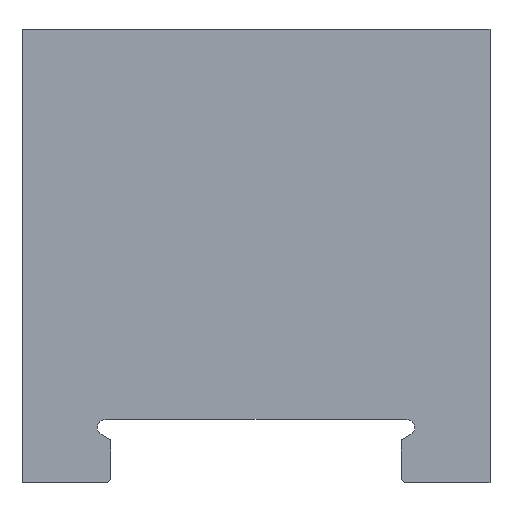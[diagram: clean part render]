
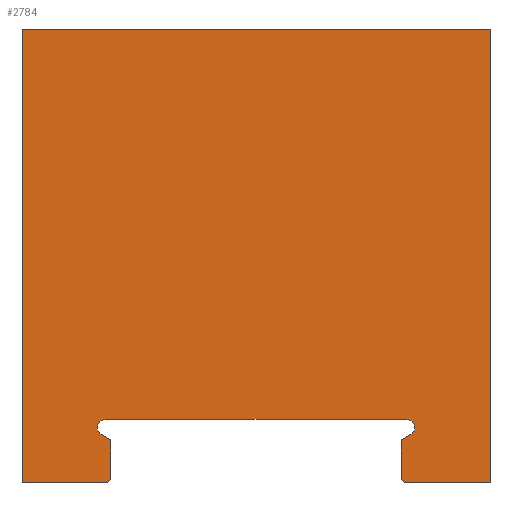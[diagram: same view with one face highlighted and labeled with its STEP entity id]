
A CAD part, front view. The second image highlights one B-rep face of the part: STEP entity #2784.
In plain terms, the highlighted planar face has unit normal (0, -1, 0).
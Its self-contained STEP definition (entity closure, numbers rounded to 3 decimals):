
#197 = VERTEX_POINT ( 'NONE', #13698 ) ;
#270 = ORIENTED_EDGE ( 'NONE', *, *, #16440, .T. ) ;
#405 = CARTESIAN_POINT ( 'NONE',  ( 20.5, -38.5, 0.5 ) ) ;
#454 = AXIS2_PLACEMENT_3D ( 'NONE', #1013, #5700, #7629 ) ;
#501 = CARTESIAN_POINT ( 'NONE',  ( 20.5, -38.5, 0.5 ) ) ;
#624 = LINE ( 'NONE', #405, #5859 ) ;
#698 = LINE ( 'NONE', #11743, #20066 ) ;
#710 = DIRECTION ( 'NONE',  ( 0., 0., 1. ) ) ;
#1013 = CARTESIAN_POINT ( 'NONE',  ( -21.295, -38.5, 7.8 ) ) ;
#1118 = DIRECTION ( 'NONE',  ( 0., -1., 0. ) ) ;
#1259 = EDGE_CURVE ( 'NONE', #9668, #18069, #11179, .T. ) ;
#1367 = VERTEX_POINT ( 'NONE', #21880 ) ;
#1699 = CIRCLE ( 'NONE', #19066, 1.1 ) ;
#1938 = VECTOR ( 'NONE', #710, 1000. ) ;
#2259 = VECTOR ( 'NONE', #12169, 1000. ) ;
#2784 = ADVANCED_FACE ( 'NONE', ( #14193 ), #15148, .F. ) ;
#2812 = CARTESIAN_POINT ( 'NONE',  ( 21.295, -38.5, 7.8 ) ) ;
#2829 = EDGE_LOOP ( 'NONE', ( #17311, #3654, #19970, #7242, #22124, #7205, #13730, #270, #6136, #4043, #21634, #11388, #19764, #7856, #8421, #8581, #6739, #14549 ) ) ;
#2834 = EDGE_CURVE ( 'NONE', #1367, #21813, #4801, .T. ) ;
#2898 = LINE ( 'NONE', #9730, #5382 ) ;
#2939 = CARTESIAN_POINT ( 'NONE',  ( 16., -38.5, 8.9 ) ) ;
#2978 = LINE ( 'NONE', #9538, #13205 ) ;
#3079 = CARTESIAN_POINT ( 'NONE',  ( -16., -38.5, 9. ) ) ;
#3403 = VECTOR ( 'NONE', #5920, 1000. ) ;
#3425 = CARTESIAN_POINT ( 'NONE',  ( -20.5, -38.5, 0. ) ) ;
#3624 = CARTESIAN_POINT ( 'NONE',  ( 21.845, -38.5, 6.847 ) ) ;
#3654 = ORIENTED_EDGE ( 'NONE', *, *, #14503, .T. ) ;
#4043 = ORIENTED_EDGE ( 'NONE', *, *, #10226, .F. ) ;
#4139 = CARTESIAN_POINT ( 'NONE',  ( -21.845, -38.5, 6.847 ) ) ;
#4322 = VECTOR ( 'NONE', #15306, 1000. ) ;
#4374 = CARTESIAN_POINT ( 'NONE',  ( -33., -38.5, 64. ) ) ;
#4464 = LINE ( 'NONE', #13759, #19140 ) ;
#4491 = EDGE_CURVE ( 'NONE', #21299, #9668, #4464, .T. ) ;
#4673 = DIRECTION ( 'NONE',  ( 0., 0., 1. ) ) ;
#4801 = CIRCLE ( 'NONE', #454, 1.1 ) ;
#5301 = CARTESIAN_POINT ( 'NONE',  ( 16., -38.5, 8.9 ) ) ;
#5382 = VECTOR ( 'NONE', #14821, 1000. ) ;
#5529 = LINE ( 'NONE', #22763, #5816 ) ;
#5700 = DIRECTION ( 'NONE',  ( 0., -1., 0. ) ) ;
#5722 = CARTESIAN_POINT ( 'NONE',  ( 33., -38.5, 64. ) ) ;
#5816 = VECTOR ( 'NONE', #22920, 1000. ) ;
#5859 = VECTOR ( 'NONE', #9347, 1000. ) ;
#5874 = CARTESIAN_POINT ( 'NONE',  ( 20.5, -38.5, 6.071 ) ) ;
#5920 = DIRECTION ( 'NONE',  ( 1., 0., 0. ) ) ;
#6136 = ORIENTED_EDGE ( 'NONE', *, *, #17377, .F. ) ;
#6154 = LINE ( 'NONE', #4374, #3403 ) ;
#6664 = LINE ( 'NONE', #22591, #9993 ) ;
#6739 = ORIENTED_EDGE ( 'NONE', *, *, #15422, .F. ) ;
#6741 = CARTESIAN_POINT ( 'NONE',  ( -33., -38.5, 0. ) ) ;
#7205 = ORIENTED_EDGE ( 'NONE', *, *, #8080, .T. ) ;
#7242 = ORIENTED_EDGE ( 'NONE', *, *, #18210, .F. ) ;
#7448 = CARTESIAN_POINT ( 'NONE',  ( 21.295, -38.5, 8.9 ) ) ;
#7629 = DIRECTION ( 'NONE',  ( 0., 0., 1. ) ) ;
#7741 = LINE ( 'NONE', #19957, #1938 ) ;
#7856 = ORIENTED_EDGE ( 'NONE', *, *, #13123, .F. ) ;
#8080 = EDGE_CURVE ( 'NONE', #17586, #22524, #2978, .T. ) ;
#8141 = VERTEX_POINT ( 'NONE', #20539 ) ;
#8393 = CARTESIAN_POINT ( 'NONE',  ( -20.5, -38.5, 6.071 ) ) ;
#8421 = ORIENTED_EDGE ( 'NONE', *, *, #16608, .F. ) ;
#8581 = ORIENTED_EDGE ( 'NONE', *, *, #22909, .F. ) ;
#9163 = LINE ( 'NONE', #3425, #2259 ) ;
#9347 = DIRECTION ( 'NONE',  ( 0.707, 0., -0.707 ) ) ;
#9527 = VERTEX_POINT ( 'NONE', #5722 ) ;
#9529 = LINE ( 'NONE', #12191, #10637 ) ;
#9538 = CARTESIAN_POINT ( 'NONE',  ( -33., -38.5, 64. ) ) ;
#9668 = VERTEX_POINT ( 'NONE', #5874 ) ;
#9730 = CARTESIAN_POINT ( 'NONE',  ( -16., -38.5, 9. ) ) ;
#9993 = VECTOR ( 'NONE', #15368, 1000. ) ;
#10184 = DIRECTION ( 'NONE',  ( -1., 0., 0. ) ) ;
#10226 = EDGE_CURVE ( 'NONE', #21813, #15051, #10987, .T. ) ;
#10408 = LINE ( 'NONE', #2939, #4322 ) ;
#10520 = VERTEX_POINT ( 'NONE', #7448 ) ;
#10637 = VECTOR ( 'NONE', #10184, 1000. ) ;
#10987 = LINE ( 'NONE', #11972, #20697 ) ;
#11112 = CARTESIAN_POINT ( 'NONE',  ( -33., -38.5, 64. ) ) ;
#11179 = LINE ( 'NONE', #12656, #12029 ) ;
#11351 = CARTESIAN_POINT ( 'NONE',  ( 33., -38.5, 0. ) ) ;
#11388 = ORIENTED_EDGE ( 'NONE', *, *, #12049, .F. ) ;
#11743 = CARTESIAN_POINT ( 'NONE',  ( -33., -38.5, 0. ) ) ;
#11824 = EDGE_CURVE ( 'NONE', #16691, #16313, #2898, .T. ) ;
#11922 = EDGE_CURVE ( 'NONE', #12310, #20478, #698, .T. ) ;
#11972 = CARTESIAN_POINT ( 'NONE',  ( -20.5, -38.5, 6.071 ) ) ;
#12029 = VECTOR ( 'NONE', #12578, 1000. ) ;
#12049 = EDGE_CURVE ( 'NONE', #16313, #1367, #9529, .T. ) ;
#12169 = DIRECTION ( 'NONE',  ( 0., 0., -1. ) ) ;
#12191 = CARTESIAN_POINT ( 'NONE',  ( -21.295, -38.5, 8.9 ) ) ;
#12310 = VERTEX_POINT ( 'NONE', #20730 ) ;
#12578 = DIRECTION ( 'NONE',  ( 0.866, 0., 0.5 ) ) ;
#12656 = CARTESIAN_POINT ( 'NONE',  ( 21.845, -38.5, 6.847 ) ) ;
#13123 = EDGE_CURVE ( 'NONE', #197, #16691, #17810, .T. ) ;
#13205 = VECTOR ( 'NONE', #16497, 1000. ) ;
#13591 = CARTESIAN_POINT ( 'NONE',  ( -16., -38.5, 9. ) ) ;
#13698 = CARTESIAN_POINT ( 'NONE',  ( 16., -38.5, 9. ) ) ;
#13730 = ORIENTED_EDGE ( 'NONE', *, *, #22465, .T. ) ;
#13735 = EDGE_CURVE ( 'NONE', #17586, #9527, #6154, .T. ) ;
#13759 = CARTESIAN_POINT ( 'NONE',  ( 20.5, -38.5, 6.071 ) ) ;
#13859 = CARTESIAN_POINT ( 'NONE',  ( -33., -38.5, 0. ) ) ;
#14193 = FACE_OUTER_BOUND ( 'NONE', #2829, .T. ) ;
#14503 = EDGE_CURVE ( 'NONE', #21299, #12310, #624, .T. ) ;
#14549 = ORIENTED_EDGE ( 'NONE', *, *, #1259, .F. ) ;
#14821 = DIRECTION ( 'NONE',  ( 0., 0., -1. ) ) ;
#14962 = AXIS2_PLACEMENT_3D ( 'NONE', #11112, #20507, #18233 ) ;
#15051 = VERTEX_POINT ( 'NONE', #8393 ) ;
#15058 = VERTEX_POINT ( 'NONE', #5301 ) ;
#15148 = PLANE ( 'NONE',  #14962 ) ;
#15306 = DIRECTION ( 'NONE',  ( -1., 0., 0. ) ) ;
#15368 = DIRECTION ( 'NONE',  ( 0., 0., -1. ) ) ;
#15422 = EDGE_CURVE ( 'NONE', #18069, #10520, #1699, .T. ) ;
#15561 = DIRECTION ( 'NONE',  ( 1., 0., 0. ) ) ;
#15840 = CARTESIAN_POINT ( 'NONE',  ( -33., -38.5, 64. ) ) ;
#16313 = VERTEX_POINT ( 'NONE', #22152 ) ;
#16440 = EDGE_CURVE ( 'NONE', #21242, #8141, #5529, .T. ) ;
#16497 = DIRECTION ( 'NONE',  ( 0., 0., -1. ) ) ;
#16608 = EDGE_CURVE ( 'NONE', #15058, #197, #7741, .T. ) ;
#16691 = VERTEX_POINT ( 'NONE', #13591 ) ;
#16994 = DIRECTION ( 'NONE',  ( 1., 0., 0. ) ) ;
#17311 = ORIENTED_EDGE ( 'NONE', *, *, #4491, .F. ) ;
#17377 = EDGE_CURVE ( 'NONE', #15051, #8141, #9163, .T. ) ;
#17549 = DIRECTION ( 'NONE',  ( -1., 0., 0. ) ) ;
#17586 = VERTEX_POINT ( 'NONE', #15840 ) ;
#17810 = LINE ( 'NONE', #3079, #21408 ) ;
#18069 = VERTEX_POINT ( 'NONE', #3624 ) ;
#18210 = EDGE_CURVE ( 'NONE', #9527, #20478, #6664, .T. ) ;
#18233 = DIRECTION ( 'NONE',  ( 0., 0., 1. ) ) ;
#18809 = DIRECTION ( 'NONE',  ( 0., 0., 1. ) ) ;
#19066 = AXIS2_PLACEMENT_3D ( 'NONE', #2812, #1118, #4673 ) ;
#19140 = VECTOR ( 'NONE', #18809, 1000. ) ;
#19764 = ORIENTED_EDGE ( 'NONE', *, *, #11824, .F. ) ;
#19957 = CARTESIAN_POINT ( 'NONE',  ( 16., -38.5, 9. ) ) ;
#19970 = ORIENTED_EDGE ( 'NONE', *, *, #11922, .T. ) ;
#20066 = VECTOR ( 'NONE', #16994, 1000. ) ;
#20121 = LINE ( 'NONE', #6741, #22902 ) ;
#20478 = VERTEX_POINT ( 'NONE', #11351 ) ;
#20507 = DIRECTION ( 'NONE',  ( 0., 1., 0. ) ) ;
#20539 = CARTESIAN_POINT ( 'NONE',  ( -20.5, -38.5, 0.5 ) ) ;
#20660 = DIRECTION ( 'NONE',  ( 0.866, 0., -0.5 ) ) ;
#20697 = VECTOR ( 'NONE', #20660, 1000. ) ;
#20730 = CARTESIAN_POINT ( 'NONE',  ( 21., -38.5, 0. ) ) ;
#21242 = VERTEX_POINT ( 'NONE', #22942 ) ;
#21299 = VERTEX_POINT ( 'NONE', #501 ) ;
#21408 = VECTOR ( 'NONE', #17549, 1000. ) ;
#21634 = ORIENTED_EDGE ( 'NONE', *, *, #2834, .F. ) ;
#21813 = VERTEX_POINT ( 'NONE', #4139 ) ;
#21880 = CARTESIAN_POINT ( 'NONE',  ( -21.295, -38.5, 8.9 ) ) ;
#22124 = ORIENTED_EDGE ( 'NONE', *, *, #13735, .F. ) ;
#22152 = CARTESIAN_POINT ( 'NONE',  ( -16., -38.5, 8.9 ) ) ;
#22465 = EDGE_CURVE ( 'NONE', #22524, #21242, #20121, .T. ) ;
#22524 = VERTEX_POINT ( 'NONE', #13859 ) ;
#22591 = CARTESIAN_POINT ( 'NONE',  ( 33., -38.5, 64. ) ) ;
#22763 = CARTESIAN_POINT ( 'NONE',  ( -21., -38.5, 0. ) ) ;
#22902 = VECTOR ( 'NONE', #15561, 1000. ) ;
#22909 = EDGE_CURVE ( 'NONE', #10520, #15058, #10408, .T. ) ;
#22920 = DIRECTION ( 'NONE',  ( 0.707, 0., 0.707 ) ) ;
#22942 = CARTESIAN_POINT ( 'NONE',  ( -21., -38.5, 0. ) ) ;
